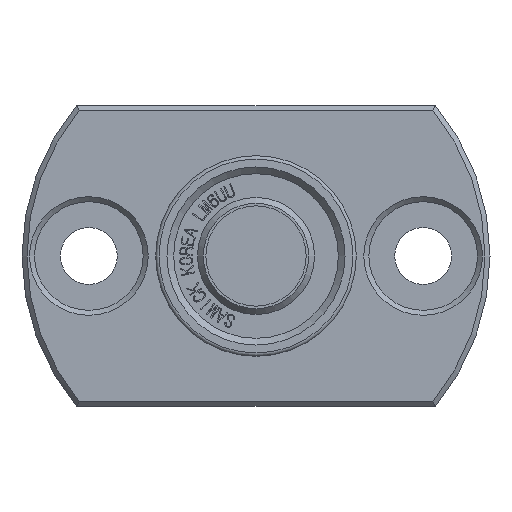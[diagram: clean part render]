
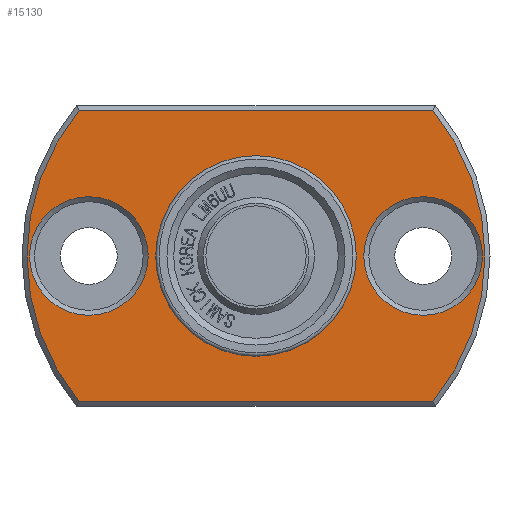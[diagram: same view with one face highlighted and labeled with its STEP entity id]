
A CAD part, front view. The second image highlights one B-rep face of the part: STEP entity #15130.
In plain terms, the highlighted planar face has unit normal (0, -1, 0).
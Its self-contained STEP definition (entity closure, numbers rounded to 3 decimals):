
#2503=FACE_BOUND('',#3599,.T.);
#2504=FACE_BOUND('',#3600,.T.);
#2505=FACE_BOUND('',#3601,.T.);
#2559=PLANE('',#15969);
#2782=FACE_OUTER_BOUND('',#3598,.T.);
#3598=EDGE_LOOP('',(#10534,#10535,#10536,#10537));
#3599=EDGE_LOOP('',(#10538));
#3600=EDGE_LOOP('',(#10539,#10540));
#3601=EDGE_LOOP('',(#10541));
#4470=LINE('',#18005,#5554);
#4471=LINE('',#18009,#5555);
#5554=VECTOR('',#16292,10.);
#5555=VECTOR('',#16295,10.);
#6637=CIRCLE('',#15966,3.55);
#6640=CIRCLE('',#15970,13.7);
#6641=CIRCLE('',#15971,13.7);
#6642=CIRCLE('',#15972,3.55);
#6643=CIRCLE('',#15973,6.);
#6644=CIRCLE('',#15974,6.);
#6703=VERTEX_POINT('',#17995);
#6706=VERTEX_POINT('',#18003);
#6707=VERTEX_POINT('',#18004);
#6708=VERTEX_POINT('',#18006);
#6709=VERTEX_POINT('',#18008);
#6710=VERTEX_POINT('',#18011);
#6711=VERTEX_POINT('',#18013);
#6712=VERTEX_POINT('',#18014);
#8235=EDGE_CURVE('',#6703,#6703,#6637,.T.);
#8239=EDGE_CURVE('',#6706,#6707,#4470,.T.);
#8240=EDGE_CURVE('',#6706,#6708,#6640,.T.);
#8241=EDGE_CURVE('',#6709,#6708,#4471,.T.);
#8242=EDGE_CURVE('',#6709,#6707,#6641,.T.);
#8243=EDGE_CURVE('',#6710,#6710,#6642,.T.);
#8244=EDGE_CURVE('',#6711,#6712,#6643,.T.);
#8245=EDGE_CURVE('',#6712,#6711,#6644,.T.);
#10534=ORIENTED_EDGE('',*,*,#8239,.F.);
#10535=ORIENTED_EDGE('',*,*,#8240,.T.);
#10536=ORIENTED_EDGE('',*,*,#8241,.F.);
#10537=ORIENTED_EDGE('',*,*,#8242,.T.);
#10538=ORIENTED_EDGE('',*,*,#8243,.F.);
#10539=ORIENTED_EDGE('',*,*,#8244,.F.);
#10540=ORIENTED_EDGE('',*,*,#8245,.F.);
#10541=ORIENTED_EDGE('',*,*,#8235,.F.);
#15130=ADVANCED_FACE('',(#2782,#2503,#2504,#2505),#2559,.T.);
#15966=AXIS2_PLACEMENT_3D('',#17996,#16283,#16284);
#15969=AXIS2_PLACEMENT_3D('',#18002,#16290,#16291);
#15970=AXIS2_PLACEMENT_3D('',#18007,#16293,#16294);
#15971=AXIS2_PLACEMENT_3D('',#18010,#16296,#16297);
#15972=AXIS2_PLACEMENT_3D('',#18012,#16298,#16299);
#15973=AXIS2_PLACEMENT_3D('',#18015,#16300,#16301);
#15974=AXIS2_PLACEMENT_3D('',#18016,#16302,#16303);
#16283=DIRECTION('center_axis',(0.,-1.,0.));
#16284=DIRECTION('ref_axis',(-1.,0.,0.));
#16290=DIRECTION('center_axis',(0.,-1.,0.));
#16291=DIRECTION('ref_axis',(0.,0.,-1.));
#16292=DIRECTION('',(-1.,0.,0.));
#16293=DIRECTION('center_axis',(0.,-1.,0.));
#16294=DIRECTION('ref_axis',(1.,0.,0.));
#16295=DIRECTION('',(1.,0.,0.));
#16296=DIRECTION('center_axis',(0.,-1.,0.));
#16297=DIRECTION('ref_axis',(1.,0.,0.));
#16298=DIRECTION('center_axis',(0.,-1.,0.));
#16299=DIRECTION('ref_axis',(-1.,0.,0.));
#16300=DIRECTION('center_axis',(0.,-1.,0.));
#16301=DIRECTION('ref_axis',(1.,0.,0.));
#16302=DIRECTION('center_axis',(0.,-1.,0.));
#16303=DIRECTION('ref_axis',(1.,0.,0.));
#17995=CARTESIAN_POINT('',(-6.45,-9.5,0.));
#17996=CARTESIAN_POINT('Origin',(-10.,-9.5,0.));
#18002=CARTESIAN_POINT('Origin',(9.85,-9.5,0.));
#18003=CARTESIAN_POINT('',(10.583,-9.5,-8.7));
#18004=CARTESIAN_POINT('',(-10.583,-9.5,-8.7));
#18005=CARTESIAN_POINT('',(13.675,-9.5,-8.7));
#18006=CARTESIAN_POINT('',(10.583,-9.5,8.7));
#18007=CARTESIAN_POINT('Origin',(0.,-9.5,0.));
#18008=CARTESIAN_POINT('',(-10.583,-9.5,8.7));
#18009=CARTESIAN_POINT('',(-3.825,-9.5,8.7));
#18010=CARTESIAN_POINT('Origin',(0.,-9.5,0.));
#18011=CARTESIAN_POINT('',(13.55,-9.5,0.));
#18012=CARTESIAN_POINT('Origin',(10.,-9.5,0.));
#18013=CARTESIAN_POINT('',(6.,-9.5,0.));
#18014=CARTESIAN_POINT('',(-6.,-9.5,0.));
#18015=CARTESIAN_POINT('Origin',(0.,-9.5,0.));
#18016=CARTESIAN_POINT('Origin',(0.,-9.5,0.));
